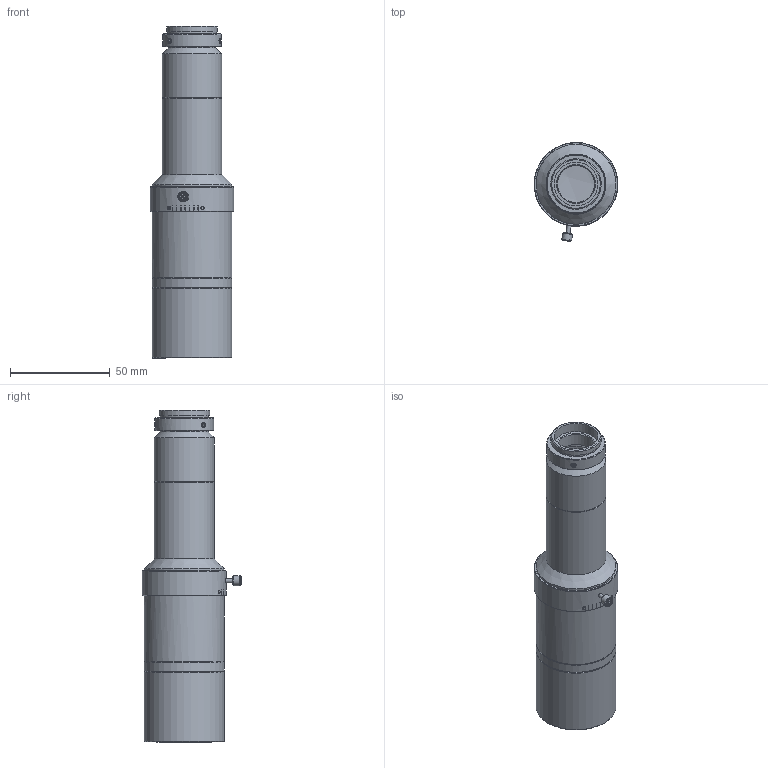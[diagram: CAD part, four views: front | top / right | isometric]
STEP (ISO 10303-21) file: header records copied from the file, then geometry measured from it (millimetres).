
FILE_DESCRIPTION(('STEP AP214'),'1');
FILE_NAME('TPC2-HMS110-SWIR.stp','2026-04-22T07:43:39',(' '),(' '),'Spatial InterOp 3D',' ',' ');
FILE_SCHEMA(('AUTOMOTIVE_DESIGN { 1 0 10303 214 1 1 1 1 }'));
Length unit declared in the file: metre
Products named in the file (2): TPC2-HMS110-SWIR; Component1
Assembly tree (1 placements, depth 2):
  TPC2-HMS110-SWIR
    Component1
Bounding box: 42 x 49.7 x 166.37 mm (x, y, z)
Volume: 39773.6 mm3; surface area: 40518.4 mm2
Topology: 1 solids, 1 shells, 266 faces, 657 edges, 431 vertices
Faces by surface type: plane 98, cylinder 58, cone 58, bspline 48, sphere 3, torus 1
Full cylindrical faces by diameter (mm): 2 x2, 2.5 x3, 3.6 x1, 5 x1, 18.5 x1, 22 x1, 23.4 x1, 24 x2, 24.1 x1, 25 x1, 25.3 x1, 27 x1, 27.6 x1, 29.5 x1, 30 x2, 32.5 x1, 33.4 x2, 33.8 x1, 36 x2, 36.9 x1, 37.5 x1, 37.7 x1, 37.9 x1, 40 x4, 42 x1
Entity records: 16154 total; most frequent: CARTESIAN_POINT 5887, ORIENTED_EDGE 1088, DIRECTION 955, STYLED_ITEM 811, PRESENTATION_STYLE_ASSIGNMENT 811, COLOUR_RGB 811, EDGE_CURVE 544, CURVE_STYLE 544
